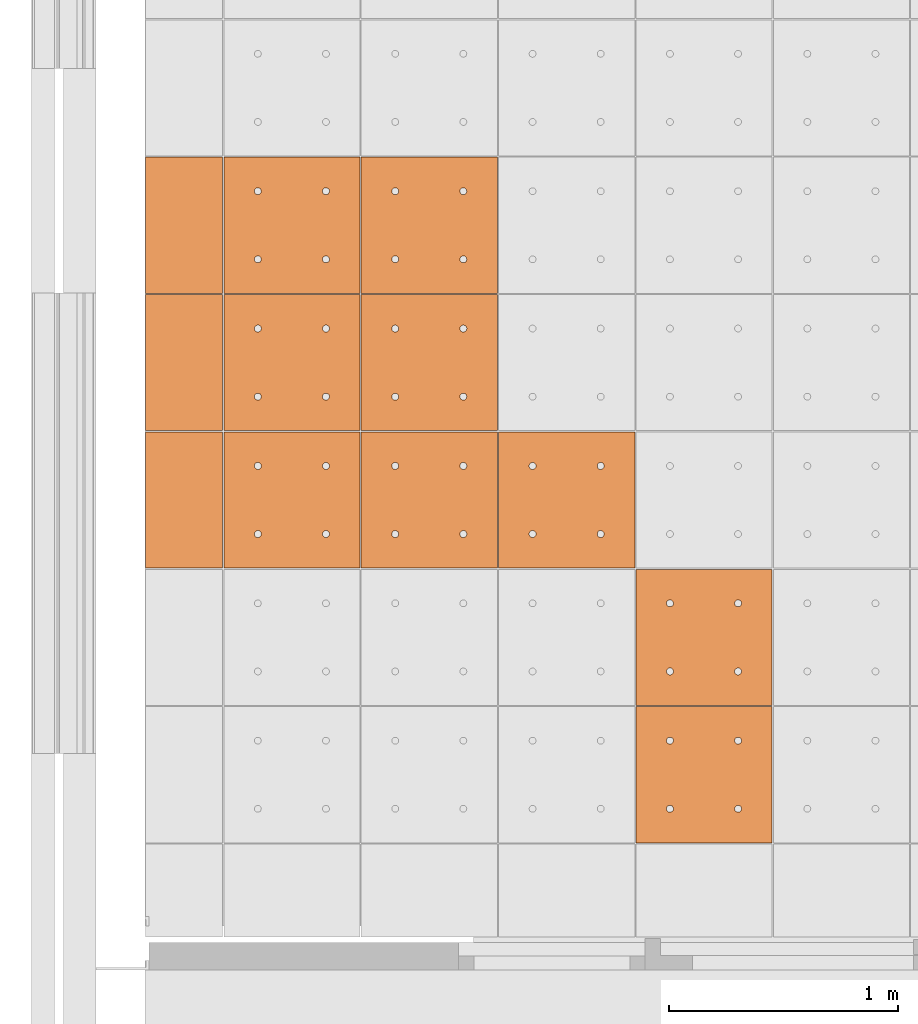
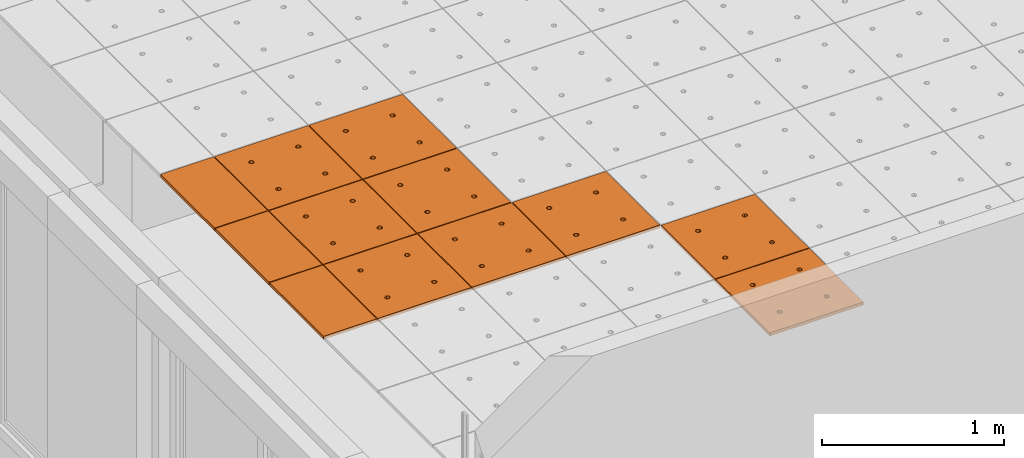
# One storey, part 234 of 338: 12 proxies, 1 element without a shape of its own.
"""IFC2X3 building model written with IfcOpenShell, lengths in millimetres."""

from ifc_helpers import new_model, entity, si_unit, converted_unit, derived_unit, money_unit, direction, frame, origin_with_axes, place, context, subcontext, project, spatial, faceted_brep, source, transform, mapped, material, type_object, type_shapes, element, aggregate, save


model = new_model("IFC2X3")

# Units and contexts
model_context = context("Model", 3, precision=0.01, world=origin_with_axes(), true_north=direction((0.0, 1.0)))
plan_context = context("Plan", 3, precision=0.01, world=origin_with_axes(), true_north=direction((0.0, 1.0)))
body_context = subcontext(model_context, "Body", "Model", "MODEL_VIEW")
ifc_project = project(units=[si_unit("LENGTHUNIT", "METRE", prefix="MILLI"), si_unit("AREAUNIT", "SQUARE_METRE"), si_unit("VOLUMEUNIT", "CUBIC_METRE"), converted_unit("PLANEANGLEUNIT", "DEGREE", entity("IfcPlaneAngleMeasure", 0.0174532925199), si_unit("PLANEANGLEUNIT", "RADIAN"), dimensions=[0, 0, 0, 0, 0, 0, 0]), money_unit("EUR"), converted_unit("TIMEUNIT", "Year", entity("IfcTimeMeasure", 31556926.0), si_unit("TIMEUNIT", "SECOND"), dimensions=[0, 0, 1, 0, 0, 0, 0]), si_unit("MASSUNIT", "GRAM", prefix="KILO"), si_unit("THERMODYNAMICTEMPERATUREUNIT", "DEGREE_CELSIUS"), si_unit("LUMINOUSINTENSITYUNIT", "LUMEN"), si_unit("ENERGYUNIT", "JOULE", prefix="MEGA"), derived_unit("THERMALCONDUCTANCEUNIT", [(si_unit("POWERUNIT", "WATT"), 1), (si_unit("LENGTHUNIT", "METRE"), -1), (si_unit("THERMODYNAMICTEMPERATUREUNIT", "KELVIN"), -1)]), derived_unit("SPECIFICHEATCAPACITYUNIT", [(si_unit("ENERGYUNIT", "JOULE"), 1), (si_unit("MASSUNIT", "GRAM", prefix="KILO"), -1), (si_unit("THERMODYNAMICTEMPERATUREUNIT", "KELVIN"), -1)]), derived_unit("MASSDENSITYUNIT", [(si_unit("MASSUNIT", "GRAM", prefix="KILO"), 1), (si_unit("VOLUMEUNIT", "CUBIC_METRE"), -1)])], contexts=[model_context, plan_context])

# Site, building, storey
site_placement = place(None, origin_with_axes())
site = spatial("IfcSite", under=ifc_project, at=site_placement, Name="Fortuinstraat Woensdrecht", CompositionType="ELEMENT")
building_placement = place(site_placement, origin_with_axes())
building = spatial("IfcBuilding", under=site, at=building_placement, Name="IKC Fortuna", CompositionType="ELEMENT")
storey_placement = place(building_placement, origin_with_axes())
storey = spatial("IfcBuildingStorey", under=building, at=storey_placement, Name="00 begane grond", CompositionType="ELEMENT", Elevation=0.0)

# Covering, proxies
covering_type = type_object("IfcCoveringType", Name="Curtain Wall Type", PredefinedType="CEILING")
covering_placement = place(storey_placement, frame((17451.9845996, 24118.5314449, 3210.0), z_axis=(0.0, 0.0, 1.0), x_axis=(1.0, 0.0, 0.0)))
covering = element("IfcCovering", 1, at=covering_placement, inside=storey, type_object=covering_type, Name="45_Plafondafwerking_P01", PredefinedType="CEILING")
ifc_material = material(Name="Gipsplaat")
building_element_proxy_type_1 = type_object("IfcBuildingElementProxyType", Name="Main Panel 600 x 600 x 20", PredefinedType="NOTDEFINED")
shared_shape_1 = source(origin_with_axes(), body_context, "Body", "Brep", [
    faceted_brep([(2.49999999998, 2.49999999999, -10.0), (300.0, 2.49999999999, -10.0), (300.0, 2.49999999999, 10.0), (2.49999999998, 2.49999999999, 10.0), (2.49999999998, 300.0, -10.0), (2.49999999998, 597.5, -10.0), (300.0, 597.5, -10.0), (597.5, 597.5, -10.0), (597.5, 300.0, -10.0), (597.5, 2.49999999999, -10.0), (166.25, 450.06232995, -10.0), (165.79423259, 452.64711538, -10.0), (164.896546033, 455.11348892, -10.0), (163.58421608, 457.38651108, -10.0), (161.897117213, 459.39711721, -10.0), (159.886511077, 461.08421608, -10.0), (157.613488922, 462.39654603, -10.0), (155.147115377, 463.29423259, -10.0), (152.562329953, 463.75, -10.0), (149.937670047, 463.75, -10.0), (147.352884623, 463.29423259, -10.0), (144.886511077, 462.39654603, -10.0), (142.613488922, 461.08421608, -10.0), (140.602882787, 459.39711721, -10.0), (138.91578392, 457.38651108, -10.0), (137.603453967, 455.11348892, -10.0), (136.705767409, 452.64711538, -10.0), (136.25, 450.06232995, -10.0), (136.25, 448.75, -10.0), (136.25, 447.43767005, -10.0), (136.705767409, 444.85288462, -10.0), (137.603453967, 442.38651108, -10.0), (138.91578392, 440.11348892, -10.0), (140.602882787, 438.10288279, -10.0), (142.613488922, 436.41578392, -10.0), (144.886511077, 435.10345397, -10.0), (147.352884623, 434.20576741, -10.0), (149.937670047, 433.75, -10.0), (152.562329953, 433.75, -10.0), (155.147115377, 434.20576741, -10.0), (157.613488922, 435.10345397, -10.0), (159.886511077, 436.41578392, -10.0), (161.897117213, 438.10288279, -10.0), (163.58421608, 440.11348892, -10.0), (164.896546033, 442.38651108, -10.0), (165.79423259, 444.85288462, -10.0), (166.25, 447.43767005, -10.0), (463.75, 450.06232995, -10.0), (463.29423259, 452.64711538, -10.0), (462.396546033, 455.11348892, -10.0), (461.08421608, 457.38651108, -10.0), (459.397117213, 459.39711721, -10.0), (457.386511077, 461.08421608, -10.0), (455.113488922, 462.39654603, -10.0), (452.647115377, 463.29423259, -10.0), (450.062329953, 463.75, -10.0), (447.437670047, 463.75, -10.0), (444.852884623, 463.29423259, -10.0), (442.386511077, 462.39654603, -10.0), (440.113488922, 461.08421608, -10.0), (438.102882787, 459.39711721, -10.0), (436.41578392, 457.38651108, -10.0), (435.103453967, 455.11348892, -10.0), (434.205767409, 452.64711538, -10.0), (433.75, 450.06232995, -10.0), (433.75, 448.75, -10.0), (433.75, 447.43767005, -10.0), (434.205767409, 444.85288462, -10.0), (435.103453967, 442.38651108, -10.0), (436.41578392, 440.11348892, -10.0), (438.102882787, 438.10288279, -10.0), (440.113488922, 436.41578392, -10.0), (442.386511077, 435.10345397, -10.0), (444.852884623, 434.20576741, -10.0), (447.437670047, 433.75, -10.0), (450.062329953, 433.75, -10.0), (452.647115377, 434.20576741, -10.0), (455.113488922, 435.10345397, -10.0), (457.386511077, 436.41578392, -10.0), (459.397117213, 438.10288279, -10.0), (461.08421608, 440.11348892, -10.0), (462.396546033, 442.38651108, -10.0), (463.29423259, 444.85288462, -10.0), (463.75, 447.43767005, -10.0), (463.75, 152.56232995, -10.0), (463.29423259, 155.14711538, -10.0), (462.396546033, 157.61348892, -10.0), (461.08421608, 159.88651108, -10.0), (459.397117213, 161.89711721, -10.0), (457.386511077, 163.58421608, -10.0), (455.113488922, 164.89654603, -10.0), (452.647115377, 165.79423259, -10.0), (450.062329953, 166.25, -10.0), (447.437670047, 166.25, -10.0), (444.852884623, 165.79423259, -10.0), (442.386511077, 164.89654603, -10.0), (440.113488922, 163.58421608, -10.0), (438.102882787, 161.89711721, -10.0), (436.41578392, 159.88651108, -10.0), (435.103453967, 157.61348892, -10.0), (434.205767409, 155.14711538, -10.0), (433.75, 152.56232995, -10.0), (433.75, 151.25, -10.0), (433.75, 149.93767005, -10.0), (434.205767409, 147.35288462, -10.0), (435.103453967, 144.88651108, -10.0), (436.41578392, 142.61348892, -10.0), (438.102882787, 140.60288279, -10.0), (440.113488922, 138.91578392, -10.0), (442.386511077, 137.60345397, -10.0), (444.852884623, 136.70576741, -10.0), (447.437670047, 136.25, -10.0), (450.062329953, 136.25, -10.0), (452.647115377, 136.70576741, -10.0), (455.113488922, 137.60345397, -10.0), (457.386511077, 138.91578392, -10.0), (459.397117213, 140.60288279, -10.0), (461.08421608, 142.61348892, -10.0), (462.396546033, 144.88651108, -10.0), (463.29423259, 147.35288462, -10.0), (463.75, 149.93767005, -10.0), (166.25, 152.56232995, -10.0), (165.79423259, 155.14711538, -10.0), (164.896546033, 157.61348892, -10.0), (163.58421608, 159.88651108, -10.0), (161.897117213, 161.89711721, -10.0), (159.886511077, 163.58421608, -10.0), (157.613488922, 164.89654603, -10.0), (155.147115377, 165.79423259, -10.0), (152.562329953, 166.25, -10.0), (149.937670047, 166.25, -10.0), (147.352884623, 165.79423259, -10.0), (144.886511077, 164.89654603, -10.0), (142.613488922, 163.58421608, -10.0), (140.602882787, 161.89711721, -10.0), (138.91578392, 159.88651108, -10.0), (137.603453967, 157.61348892, -10.0), (136.705767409, 155.14711538, -10.0), (136.25, 152.56232995, -10.0), (136.25, 151.25, -10.0), (136.25, 149.93767005, -10.0), (136.705767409, 147.35288462, -10.0), (137.603453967, 144.88651108, -10.0), (138.91578392, 142.61348892, -10.0), (140.602882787, 140.60288279, -10.0), (142.613488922, 138.91578392, -10.0), (144.886511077, 137.60345397, -10.0), (147.352884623, 136.70576741, -10.0), (149.937670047, 136.25, -10.0), (152.562329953, 136.25, -10.0), (155.147115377, 136.70576741, -10.0), (157.613488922, 137.60345397, -10.0), (159.886511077, 138.91578392, -10.0), (161.897117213, 140.60288279, -10.0), (163.58421608, 142.61348892, -10.0), (164.896546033, 144.88651108, -10.0), (165.79423259, 147.35288462, -10.0), (166.25, 149.93767005, -10.0), (597.5, 2.49999999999, 10.0), (597.5, 300.0, 10.0), (597.5, 597.5, 10.0), (300.0, 597.5, 10.0), (2.49999999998, 597.5, 10.0), (2.49999999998, 300.0, 10.0), (166.25, 450.06232995, 10.0), (166.25, 447.43767005, 10.0), (165.79423259, 444.85288462, 10.0), (164.896546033, 442.38651108, 10.0), (163.58421608, 440.11348892, 10.0), (161.897117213, 438.10288279, 10.0), (159.886511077, 436.41578392, 10.0), (157.613488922, 435.10345397, 10.0), (155.147115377, 434.20576741, 10.0), (152.562329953, 433.75, 10.0), (149.937670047, 433.75, 10.0), (147.352884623, 434.20576741, 10.0), (144.886511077, 435.10345397, 10.0), (142.613488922, 436.41578392, 10.0), (140.602882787, 438.10288279, 10.0), (138.91578392, 440.11348892, 10.0), (137.603453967, 442.38651108, 10.0), (136.705767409, 444.85288462, 10.0), (136.25, 447.43767005, 10.0), (136.25, 448.75, 10.0), (136.25, 450.06232995, 10.0), (136.705767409, 452.64711538, 10.0), (137.603453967, 455.11348892, 10.0), (138.91578392, 457.38651108, 10.0), (140.602882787, 459.39711721, 10.0), (142.613488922, 461.08421608, 10.0), (144.886511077, 462.39654603, 10.0), (147.352884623, 463.29423259, 10.0), (149.937670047, 463.75, 10.0), (152.562329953, 463.75, 10.0), (155.147115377, 463.29423259, 10.0), (157.613488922, 462.39654603, 10.0), (159.886511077, 461.08421608, 10.0), (161.897117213, 459.39711721, 10.0), (163.58421608, 457.38651108, 10.0), (164.896546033, 455.11348892, 10.0), (165.79423259, 452.64711538, 10.0), (463.75, 450.06232995, 10.0), (463.75, 447.43767005, 10.0), (463.29423259, 444.85288462, 10.0), (462.396546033, 442.38651108, 10.0), (461.08421608, 440.11348892, 10.0), (459.397117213, 438.10288279, 10.0), (457.386511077, 436.41578392, 10.0), (455.113488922, 435.10345397, 10.0), (452.647115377, 434.20576741, 10.0), (450.062329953, 433.75, 10.0), (447.437670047, 433.75, 10.0), (444.852884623, 434.20576741, 10.0), (442.386511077, 435.10345397, 10.0), (440.113488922, 436.41578392, 10.0), (438.102882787, 438.10288279, 10.0), (436.41578392, 440.11348892, 10.0), (435.103453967, 442.38651108, 10.0), (434.205767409, 444.85288462, 10.0), (433.75, 447.43767005, 10.0), (433.75, 448.75, 10.0), (433.75, 450.06232995, 10.0), (434.205767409, 452.64711538, 10.0), (435.103453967, 455.11348892, 10.0), (436.41578392, 457.38651108, 10.0), (438.102882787, 459.39711721, 10.0), (440.113488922, 461.08421608, 10.0), (442.386511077, 462.39654603, 10.0), (444.852884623, 463.29423259, 10.0), (447.437670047, 463.75, 10.0), (450.062329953, 463.75, 10.0), (452.647115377, 463.29423259, 10.0), (455.113488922, 462.39654603, 10.0), (457.386511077, 461.08421608, 10.0), (459.397117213, 459.39711721, 10.0), (461.08421608, 457.38651108, 10.0), (462.396546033, 455.11348892, 10.0), (463.29423259, 452.64711538, 10.0), (463.75, 152.56232995, 10.0), (463.75, 149.93767005, 10.0), (463.29423259, 147.35288462, 10.0), (462.396546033, 144.88651108, 10.0), (461.08421608, 142.61348892, 10.0), (459.397117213, 140.60288279, 10.0), (457.386511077, 138.91578392, 10.0), (455.113488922, 137.60345397, 10.0), (452.647115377, 136.70576741, 10.0), (450.062329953, 136.25, 10.0), (447.437670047, 136.25, 10.0), (444.852884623, 136.70576741, 10.0), (442.386511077, 137.60345397, 10.0), (440.113488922, 138.91578392, 10.0), (438.102882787, 140.60288279, 10.0), (436.41578392, 142.61348892, 10.0), (435.103453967, 144.88651108, 10.0), (434.205767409, 147.35288462, 10.0), (433.75, 149.93767005, 10.0), (433.75, 151.25, 10.0), (433.75, 152.56232995, 10.0), (434.205767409, 155.14711538, 10.0), (435.103453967, 157.61348892, 10.0), (436.41578392, 159.88651108, 10.0), (438.102882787, 161.89711721, 10.0), (440.113488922, 163.58421608, 10.0), (442.386511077, 164.89654603, 10.0), (444.852884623, 165.79423259, 10.0), (447.437670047, 166.25, 10.0), (450.062329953, 166.25, 10.0), (452.647115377, 165.79423259, 10.0), (455.113488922, 164.89654603, 10.0), (457.386511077, 163.58421608, 10.0), (459.397117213, 161.89711721, 10.0), (461.08421608, 159.88651108, 10.0), (462.396546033, 157.61348892, 10.0), (463.29423259, 155.14711538, 10.0), (166.25, 152.56232995, 10.0), (166.25, 149.93767005, 10.0), (165.79423259, 147.35288462, 10.0), (164.896546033, 144.88651108, 10.0), (163.58421608, 142.61348892, 10.0), (161.897117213, 140.60288279, 10.0), (159.886511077, 138.91578392, 10.0), (157.613488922, 137.60345397, 10.0), (155.147115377, 136.70576741, 10.0), (152.562329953, 136.25, 10.0), (149.937670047, 136.25, 10.0), (147.352884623, 136.70576741, 10.0), (144.886511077, 137.60345397, 10.0), (142.613488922, 138.91578392, 10.0), (140.602882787, 140.60288279, 10.0), (138.91578392, 142.61348892, 10.0), (137.603453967, 144.88651108, 10.0), (136.705767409, 147.35288462, 10.0), (136.25, 149.93767005, 10.0), (136.25, 151.25, 10.0), (136.25, 152.56232995, 10.0), (136.705767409, 155.14711538, 10.0), (137.603453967, 157.61348892, 10.0), (138.91578392, 159.88651108, 10.0), (140.602882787, 161.89711721, 10.0), (142.613488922, 163.58421608, 10.0), (144.886511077, 164.89654603, 10.0), (147.352884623, 165.79423259, 10.0), (149.937670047, 166.25, 10.0), (152.562329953, 166.25, 10.0), (155.147115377, 165.79423259, 10.0), (157.613488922, 164.89654603, 10.0), (159.886511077, 163.58421608, 10.0), (161.897117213, 161.89711721, 10.0), (163.58421608, 159.88651108, 10.0), (164.896546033, 157.61348892, 10.0), (165.79423259, 155.14711538, 10.0)], [[[0, 1, 2, 3]], [[0, 4, 5, 6, 7, 8, 9, 1], [10, 11, 12, 13, 14, 15, 16, 17, 18, 19, 20, 21, 22, 23, 24, 25, 26, 27, 28, 29, 30, 31, 32, 33, 34, 35, 36, 37, 38, 39, 40, 41, 42, 43, 44, 45, 46], [47, 48, 49, 50, 51, 52, 53, 54, 55, 56, 57, 58, 59, 60, 61, 62, 63, 64, 65, 66, 67, 68, 69, 70, 71, 72, 73, 74, 75, 76, 77, 78, 79, 80, 81, 82, 83], [84, 85, 86, 87, 88, 89, 90, 91, 92, 93, 94, 95, 96, 97, 98, 99, 100, 101, 102, 103, 104, 105, 106, 107, 108, 109, 110, 111, 112, 113, 114, 115, 116, 117, 118, 119, 120], [121, 122, 123, 124, 125, 126, 127, 128, 129, 130, 131, 132, 133, 134, 135, 136, 137, 138, 139, 140, 141, 142, 143, 144, 145, 146, 147, 148, 149, 150, 151, 152, 153, 154, 155, 156, 157]], [[1, 9, 158, 2]], [[3, 2, 158, 159, 160, 161, 162, 163], [164, 165, 166, 167, 168, 169, 170, 171, 172, 173, 174, 175, 176, 177, 178, 179, 180, 181, 182, 183, 184, 185, 186, 187, 188, 189, 190, 191, 192, 193, 194, 195, 196, 197, 198, 199, 200], [201, 202, 203, 204, 205, 206, 207, 208, 209, 210, 211, 212, 213, 214, 215, 216, 217, 218, 219, 220, 221, 222, 223, 224, 225, 226, 227, 228, 229, 230, 231, 232, 233, 234, 235, 236, 237], [238, 239, 240, 241, 242, 243, 244, 245, 246, 247, 248, 249, 250, 251, 252, 253, 254, 255, 256, 257, 258, 259, 260, 261, 262, 263, 264, 265, 266, 267, 268, 269, 270, 271, 272, 273, 274], [275, 276, 277, 278, 279, 280, 281, 282, 283, 284, 285, 286, 287, 288, 289, 290, 291, 292, 293, 294, 295, 296, 297, 298, 299, 300, 301, 302, 303, 304, 305, 306, 307, 308, 309, 310, 311]], [[4, 0, 3, 163]], [[5, 4, 163, 162]], [[6, 5, 162, 161]], [[7, 6, 161, 160]], [[8, 7, 160, 159]], [[9, 8, 159, 158]], [[11, 10, 164, 200]], [[12, 11, 200, 199]], [[13, 12, 199, 198]], [[14, 13, 198, 197]], [[15, 14, 197, 196]], [[16, 15, 196, 195]], [[17, 16, 195, 194]], [[18, 17, 194, 193]], [[19, 18, 193, 192]], [[20, 19, 192, 191]], [[21, 20, 191, 190]], [[22, 21, 190, 189]], [[23, 22, 189, 188]], [[24, 23, 188, 187]], [[25, 24, 187, 186]], [[26, 25, 186, 185]], [[27, 26, 185, 184]], [[28, 27, 184, 183]], [[29, 28, 183, 182]], [[30, 29, 182, 181]], [[31, 30, 181, 180]], [[32, 31, 180, 179]], [[33, 32, 179, 178]], [[34, 33, 178, 177]], [[35, 34, 177, 176]], [[36, 35, 176, 175]], [[37, 36, 175, 174]], [[38, 37, 174, 173]], [[39, 38, 173, 172]], [[40, 39, 172, 171]], [[41, 40, 171, 170]], [[42, 41, 170, 169]], [[43, 42, 169, 168]], [[44, 43, 168, 167]], [[45, 44, 167, 166]], [[46, 45, 166, 165]], [[10, 46, 165, 164]], [[48, 47, 201, 237]], [[49, 48, 237, 236]], [[50, 49, 236, 235]], [[51, 50, 235, 234]], [[52, 51, 234, 233]], [[53, 52, 233, 232]], [[54, 53, 232, 231]], [[55, 54, 231, 230]], [[56, 55, 230, 229]], [[57, 56, 229, 228]], [[58, 57, 228, 227]], [[59, 58, 227, 226]], [[60, 59, 226, 225]], [[61, 60, 225, 224]], [[62, 61, 224, 223]], [[63, 62, 223, 222]], [[64, 63, 222, 221]], [[65, 64, 221, 220]], [[66, 65, 220, 219]], [[67, 66, 219, 218]], [[68, 67, 218, 217]], [[69, 68, 217, 216]], [[70, 69, 216, 215]], [[71, 70, 215, 214]], [[72, 71, 214, 213]], [[73, 72, 213, 212]], [[74, 73, 212, 211]], [[75, 74, 211, 210]], [[76, 75, 210, 209]], [[77, 76, 209, 208]], [[78, 77, 208, 207]], [[79, 78, 207, 206]], [[80, 79, 206, 205]], [[81, 80, 205, 204]], [[82, 81, 204, 203]], [[83, 82, 203, 202]], [[47, 83, 202, 201]], [[85, 84, 238, 274]], [[86, 85, 274, 273]], [[87, 86, 273, 272]], [[88, 87, 272, 271]], [[89, 88, 271, 270]], [[90, 89, 270, 269]], [[91, 90, 269, 268]], [[92, 91, 268, 267]], [[93, 92, 267, 266]], [[94, 93, 266, 265]], [[95, 94, 265, 264]], [[96, 95, 264, 263]], [[97, 96, 263, 262]], [[98, 97, 262, 261]], [[99, 98, 261, 260]], [[100, 99, 260, 259]], [[101, 100, 259, 258]], [[102, 101, 258, 257]], [[103, 102, 257, 256]], [[104, 103, 256, 255]], [[105, 104, 255, 254]], [[106, 105, 254, 253]], [[107, 106, 253, 252]], [[108, 107, 252, 251]], [[109, 108, 251, 250]], [[110, 109, 250, 249]], [[111, 110, 249, 248]], [[112, 111, 248, 247]], [[113, 112, 247, 246]], [[114, 113, 246, 245]], [[115, 114, 245, 244]], [[116, 115, 244, 243]], [[117, 116, 243, 242]], [[118, 117, 242, 241]], [[119, 118, 241, 240]], [[120, 119, 240, 239]], [[84, 120, 239, 238]], [[122, 121, 275, 311]], [[123, 122, 311, 310]], [[124, 123, 310, 309]], [[125, 124, 309, 308]], [[126, 125, 308, 307]], [[127, 126, 307, 306]], [[128, 127, 306, 305]], [[129, 128, 305, 304]], [[130, 129, 304, 303]], [[131, 130, 303, 302]], [[132, 131, 302, 301]], [[133, 132, 301, 300]], [[134, 133, 300, 299]], [[135, 134, 299, 298]], [[136, 135, 298, 297]], [[137, 136, 297, 296]], [[138, 137, 296, 295]], [[139, 138, 295, 294]], [[140, 139, 294, 293]], [[141, 140, 293, 292]], [[142, 141, 292, 291]], [[143, 142, 291, 290]], [[144, 143, 290, 289]], [[145, 144, 289, 288]], [[146, 145, 288, 287]], [[147, 146, 287, 286]], [[148, 147, 286, 285]], [[149, 148, 285, 284]], [[150, 149, 284, 283]], [[151, 150, 283, 282]], [[152, 151, 282, 281]], [[153, 152, 281, 280]], [[154, 153, 280, 279]], [[155, 154, 279, 278]], [[156, 155, 278, 277]], [[157, 156, 277, 276]], [[121, 157, 276, 275]]]),
])
type_shapes(building_element_proxy_type_1, [shared_shape_1])
proxy_1_placement = place(covering_placement, frame((-1200.0, -6600.0, 1.37223565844e-10), z_axis=(0.0, 0.0, 1.0), x_axis=(1.0, 0.0, 0.0)))
proxy_1 = element("IfcBuildingElementProxy", 2, at=proxy_1_placement, type_object=building_element_proxy_type_1, material=ifc_material, Name="__600x657 Rockfon Krios", context=body_context, shape_type="MappedRepresentation", body=[
    mapped(shared_shape_1, transform((300.0, 300.0, 0.0), x_axis=(-1.0, 0.0, 0.0), y_axis=(0.0, -1.0, 0.0), z_axis=(0.0, 0.0, 1.0))),
])
proxy_2_placement = place(covering_placement, frame((-1200.0, -7200.0, 1.37223565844e-10), z_axis=(0.0, 0.0, 1.0), x_axis=(1.0, 0.0, 0.0)))
proxy_2 = element("IfcBuildingElementProxy", 3, at=proxy_2_placement, type_object=building_element_proxy_type_1, material=ifc_material, Name="__600x680 Rockfon Krios", context=body_context, shape_type="MappedRepresentation", body=[
    mapped(shared_shape_1, transform((300.0, 300.0, 0.0), x_axis=(-1.0, 0.0, 0.0), y_axis=(0.0, -1.0, 0.0), z_axis=(0.0, 0.0, 1.0))),
])
proxy_3_placement = place(covering_placement, frame((-3000.0, -4800.0, 1.96287430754e-10), z_axis=(0.0, 0.0, 1.0), x_axis=(1.0, 0.0, 0.0)))
proxy_3 = element("IfcBuildingElementProxy", 4, at=proxy_3_placement, type_object=building_element_proxy_type_1, material=ifc_material, Name="__600x732 Rockfon Krios", context=body_context, shape_type="MappedRepresentation", body=[
    mapped(shared_shape_1, transform((300.0, 300.0, 0.0), x_axis=(-1.0, 0.0, 0.0), y_axis=(0.0, -1.0, 0.0), z_axis=(0.0, 0.0, 1.0))),
])
proxy_4_placement = place(covering_placement, frame((-3000.0, -5400.0, 1.96287430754e-10), z_axis=(0.0, 0.0, 1.0), x_axis=(1.0, 0.0, 0.0)))
proxy_4 = element("IfcBuildingElementProxy", 5, at=proxy_4_placement, type_object=building_element_proxy_type_1, material=ifc_material, Name="__600x734 Rockfon Krios", context=body_context, shape_type="MappedRepresentation", body=[
    mapped(shared_shape_1, transform((300.0, 300.0, 0.0), x_axis=(-1.0, 0.0, 0.0), y_axis=(0.0, -1.0, 0.0), z_axis=(0.0, 0.0, 1.0))),
])
proxy_5_placement = place(covering_placement, frame((-3000.0, -6000.0, 1.96287430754e-10), z_axis=(0.0, 0.0, 1.0), x_axis=(1.0, 0.0, 0.0)))
proxy_5 = element("IfcBuildingElementProxy", 6, at=proxy_5_placement, type_object=building_element_proxy_type_1, material=ifc_material, Name="__600x736 Rockfon Krios", context=body_context, shape_type="MappedRepresentation", body=[
    mapped(shared_shape_1, transform((300.0, 300.0, 0.0), x_axis=(-1.0, 0.0, 0.0), y_axis=(0.0, -1.0, 0.0), z_axis=(0.0, 0.0, 1.0))),
])
proxy_6_placement = place(covering_placement, frame((-2400.0, -4800.0, 1.7630341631e-10), z_axis=(0.0, 0.0, 1.0), x_axis=(1.0, 0.0, 0.0)))
proxy_6 = element("IfcBuildingElementProxy", 7, at=proxy_6_placement, type_object=building_element_proxy_type_1, material=ifc_material, Name="__600x739 Rockfon Krios", context=body_context, shape_type="MappedRepresentation", body=[
    mapped(shared_shape_1, transform((300.0, 300.0, 0.0), x_axis=(-1.0, 0.0, 0.0), y_axis=(0.0, -1.0, 0.0), z_axis=(0.0, 0.0, 1.0))),
])
proxy_7_placement = place(covering_placement, frame((-1800.0, -6000.0, 1.56763491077e-10), z_axis=(0.0, 0.0, 1.0), x_axis=(1.0, 0.0, 0.0)))
proxy_7 = element("IfcBuildingElementProxy", 8, at=proxy_7_placement, type_object=building_element_proxy_type_1, material=ifc_material, Name="__600x748 Rockfon Krios", context=body_context, shape_type="MappedRepresentation", body=[
    mapped(shared_shape_1, transform((300.0, 300.0, 0.0), x_axis=(-1.0, 0.0, 0.0), y_axis=(0.0, -1.0, 0.0), z_axis=(0.0, 0.0, 1.0))),
])
proxy_8_placement = place(covering_placement, frame((-2400.0, -6000.0, 1.7630341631e-10), z_axis=(0.0, 0.0, 1.0), x_axis=(1.0, 0.0, 0.0)))
proxy_8 = element("IfcBuildingElementProxy", 9, at=proxy_8_placement, type_object=building_element_proxy_type_1, material=ifc_material, Name="__600x767 Rockfon Krios", context=body_context, shape_type="MappedRepresentation", body=[
    mapped(shared_shape_1, transform((300.0, 300.0, 0.0), x_axis=(-1.0, 0.0, 0.0), y_axis=(0.0, -1.0, 0.0), z_axis=(0.0, 0.0, 1.0))),
])
proxy_9_placement = place(covering_placement, frame((-2400.0, -5400.0, 1.7630341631e-10), z_axis=(0.0, 0.0, 1.0), x_axis=(1.0, 0.0, 0.0)))
proxy_9 = element("IfcBuildingElementProxy", 10, at=proxy_9_placement, type_object=building_element_proxy_type_1, material=ifc_material, Name="__600x776 Rockfon Krios", context=body_context, shape_type="MappedRepresentation", body=[
    mapped(shared_shape_1, transform((300.0, 300.0, 0.0), x_axis=(-1.0, 0.0, 0.0), y_axis=(0.0, -1.0, 0.0), z_axis=(0.0, 0.0, 1.0))),
])
building_element_proxy_type_2 = type_object("IfcBuildingElementProxyType", Name="343 x 600 x 20", PredefinedType="NOTDEFINED")
shared_shape_2 = source(origin_with_axes(), body_context, "Body", "Brep", [
    faceted_brep([(2.49999910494, 2.5, -10.0), (340.049548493, 2.49999999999, -10.0), (340.049548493, 2.49999999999, 10.0), (2.49999910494, 2.5, 10.0), (2.49999910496, 597.5, -10.0), (340.049548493, 597.5, -10.0), (340.049548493, 597.5, 10.0), (2.49999910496, 597.5, 10.0)], [[[0, 1, 2, 3]], [[0, 4, 5, 1]], [[1, 5, 6, 2]], [[3, 2, 6, 7]], [[4, 0, 3, 7]], [[5, 4, 7, 6]]]),
])
type_shapes(building_element_proxy_type_2, [shared_shape_2])
proxy_10_placement = place(covering_placement, frame((-3471.27477425, -6000.0, 2.11830553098e-10), z_axis=(0.0, 0.0, 1.0), x_axis=(1.0, 0.0, 0.0)))
proxy_10 = element("IfcBuildingElementProxy", 11, at=proxy_10_placement, type_object=building_element_proxy_type_2, material=ifc_material, Name="__600x745 Rockfon Krios", context=body_context, shape_type="MappedRepresentation", body=[
    mapped(shared_shape_2, transform((171.274774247, 300.0, 0.0), x_axis=(-1.0, 0.0, 0.0), y_axis=(0.0, -1.0, 0.0), z_axis=(0.0, 0.0, 1.0))),
])
proxy_11_placement = place(covering_placement, frame((-3471.27477425, -4800.0, 2.11830553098e-10), z_axis=(0.0, 0.0, 1.0), x_axis=(1.0, 0.0, 0.0)))
proxy_11 = element("IfcBuildingElementProxy", 12, at=proxy_11_placement, type_object=building_element_proxy_type_2, material=ifc_material, Name="__600x747 Rockfon Krios", context=body_context, shape_type="MappedRepresentation", body=[
    mapped(shared_shape_2, transform((171.274774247, 300.0, 0.0), x_axis=(-1.0, 0.0, 0.0), y_axis=(0.0, -1.0, 0.0), z_axis=(0.0, 0.0, 1.0))),
])
proxy_12_placement = place(covering_placement, frame((-3471.27477425, -5400.0, 2.11830553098e-10), z_axis=(0.0, 0.0, 1.0), x_axis=(1.0, 0.0, 0.0)))
proxy_12 = element("IfcBuildingElementProxy", 13, at=proxy_12_placement, type_object=building_element_proxy_type_2, material=ifc_material, Name="__600x761 Rockfon Krios", context=body_context, shape_type="MappedRepresentation", body=[
    mapped(shared_shape_2, transform((171.274774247, 300.0, 0.0), x_axis=(-1.0, 0.0, 0.0), y_axis=(0.0, -1.0, 0.0), z_axis=(0.0, 0.0, 1.0))),
])
aggregate(covering, [proxy_1, proxy_2, proxy_3, proxy_4, proxy_5, proxy_6, proxy_10, proxy_11, proxy_7, proxy_12, proxy_8, proxy_9])

save(model, "model.ifc")
